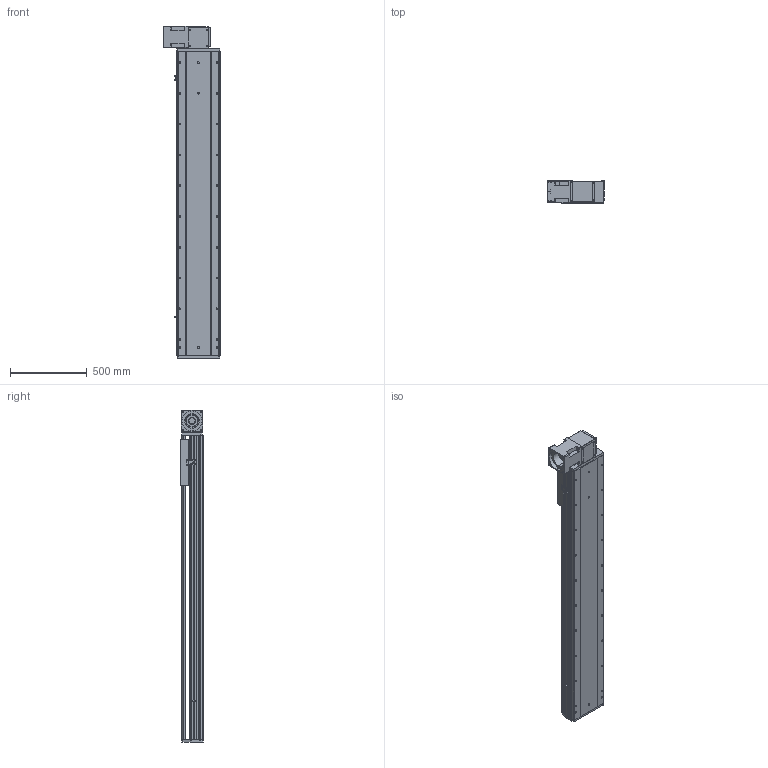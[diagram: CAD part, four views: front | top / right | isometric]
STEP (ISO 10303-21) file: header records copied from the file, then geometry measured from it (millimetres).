
FILE_DESCRIPTION (( 'STEP AP214' ), '1' );
FILE_NAME ('RTB28R-XX-1550-BR-M100-XX-C4.STEP', '2025-12-22T01:13:56', ( '' ), ( '' ), 'SwSTEP 2.0', 'SolidWorks 2018', '' );
FILE_SCHEMA (( 'AUTOMOTIVE_DESIGN' ));
Length unit declared in the file: millimetre
Products named in the file (4): RTB28R-XX-1550-BR-M100-XX-C4; RTB28S-GY-011^RTB28R-XX-XX-BR-M100-XX-C4; RTB28S-GY-008^RTB28R-XX-XX-BR-M100-XX-C4; RTB28S-GY-004^RTB28R-XX-XX-BR-M100-XX-C4
Assembly tree (3 placements, depth 2):
  RTB28R-XX-1550-BR-M100-XX-C4
    RTB28S-GY-011^RTB28R-XX-XX-BR-M100-XX-C4
    RTB28S-GY-004^RTB28R-XX-XX-BR-M100-XX-C4
    RTB28S-GY-008^RTB28R-XX-XX-BR-M100-XX-C4
Bounding box: 370 x 145 x 2157 mm (x, y, z)
Volume: 38268812.9 mm3; surface area: 3644582.8 mm2
Topology: 3 solids, 4 shells, 1018 faces, 2700 edges, 1736 vertices
Faces by surface type: plane 462, cylinder 385, bspline 87, cone 80, torus 4
Entity records: 43660 total; most frequent: CARTESIAN_POINT 11695, ORIENTED_EDGE 5336, DIRECTION 5196, EDGE_CURVE 2668, AXIS2_PLACEMENT_3D 1797, VERTEX_POINT 1736, LINE 1602, VECTOR 1602
